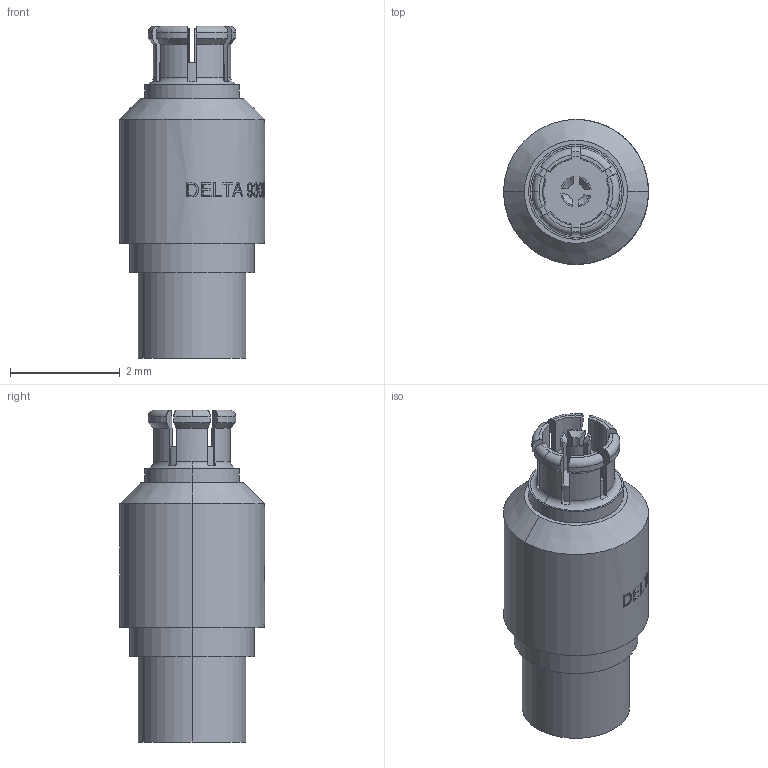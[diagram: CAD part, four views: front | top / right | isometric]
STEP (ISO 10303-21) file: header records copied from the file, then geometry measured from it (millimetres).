
FILE_DESCRIPTION (( 'STEP AP203' ), '1' );
FILE_NAME ('9308111G003-000.STEP', '2023-03-17T12:37:09', ( '' ), ( '' ), 'SwSTEP 2.0', 'SolidWorks 2022', '' );
FILE_SCHEMA (( 'CONFIG_CONTROL_DESIGN' ));
Length unit declared in the file: inch
Products named in the file (1): 9308111G003-000
Bounding box: 2.64 x 2.64 x 6.05 mm (x, y, z)
Volume: 20.7 mm3; surface area: 59.7 mm2
Topology: 1 solids, 1 shells, 360 faces, 947 edges, 629 vertices
Faces by surface type: bspline 156, plane 104, cylinder 65, cone 26, torus 9
Entity records: 14403 total; most frequent: CARTESIAN_POINT 6784, ORIENTED_EDGE 1894, DIRECTION 993, EDGE_CURVE 947, VERTEX_POINT 629, B_SPLINE_CURVE_WITH_KNOTS 546, EDGE_LOOP 400, AXIS2_PLACEMENT_3D 387
